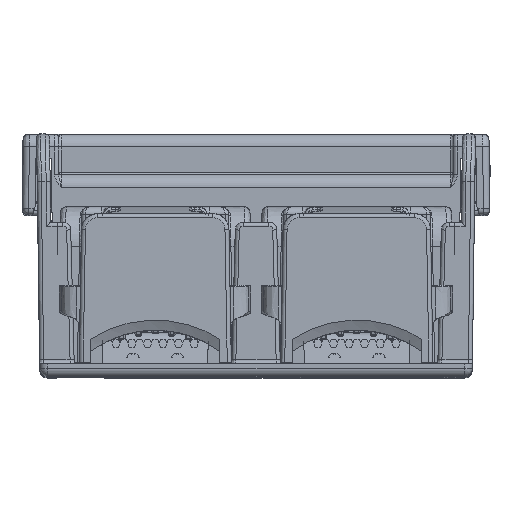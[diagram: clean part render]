
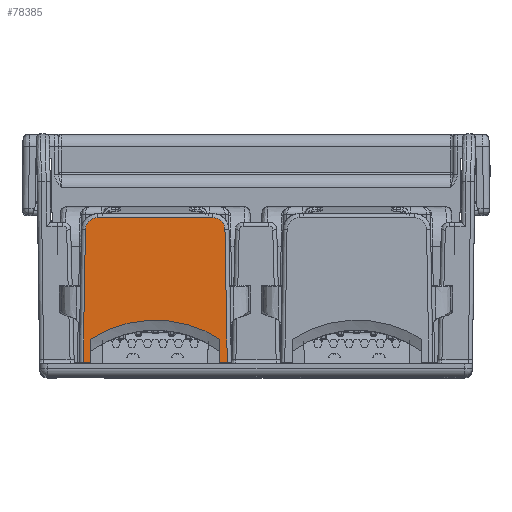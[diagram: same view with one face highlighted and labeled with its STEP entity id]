
A CAD part, top view. The second image highlights one B-rep face of the part: STEP entity #78385.
In plain terms, the highlighted planar face has unit normal (0, 0.013, 1).
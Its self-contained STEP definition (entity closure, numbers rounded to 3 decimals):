
#16621=DIRECTION('',(0.,1.,-0.013));
#16622=VECTOR('',#16621,2.818);
#16623=CARTESIAN_POINT('',(-20.45,1.8,51.85));
#16624=LINE('',#16623,#16622);
#16729=CARTESIAN_POINT('',(-21.35,1.8,51.85));
#16743=CARTESIAN_POINT('',(-3.55,1.8,51.85));
#19562=DIRECTION('',(0.,-1.,0.013));
#19563=VECTOR('',#19562,2.818);
#19564=CARTESIAN_POINT('',(-4.45,4.618,51.813));
#19565=LINE('',#19564,#19563);
#19676=DIRECTION('',(-1.,0.,0.));
#19677=VECTOR('',#19676,14.229);
#19678=CARTESIAN_POINT('',(-5.336,19.631,
51.617));
#19679=LINE('',#19678,#19677);
#19680=CARTESIAN_POINT('',(-3.835,18.13,
51.636));
#19681=CARTESIAN_POINT('',(-3.837,18.248,
51.635));
#19682=CARTESIAN_POINT('',(-3.867,18.473,
51.632));
#19683=CARTESIAN_POINT('',(-3.978,18.783,
51.628));
#19684=CARTESIAN_POINT('',(-4.155,19.065,
51.624));
#19685=CARTESIAN_POINT('',(-4.381,19.297,
51.621));
#19686=CARTESIAN_POINT('',(-4.661,19.482,
51.619));
#19687=CARTESIAN_POINT('',(-4.987,19.603,
51.617));
#19688=CARTESIAN_POINT('',(-5.216,19.631,
51.617));
#19689=CARTESIAN_POINT('',(-5.336,19.631,
51.617));
#19691=DIRECTION('',(-0.017,1.,-0.013));
#19692=VECTOR('',#19691,16.334);
#19693=CARTESIAN_POINT('',(-3.55,1.8,51.85));
#19694=LINE('',#19693,#19692);
#19695=DIRECTION('',(-1.,0.,0.));
#19696=VECTOR('',#19695,0.9);
#19697=CARTESIAN_POINT('',(-3.55,1.8,51.85));
#19698=LINE('',#19697,#19696);
#19699=CARTESIAN_POINT('',(-20.45,4.618,51.813));
#19700=CARTESIAN_POINT('',(-20.411,4.643,
51.813));
#19701=CARTESIAN_POINT('',(-19.705,5.095,
51.807));
#19702=CARTESIAN_POINT('',(-18.257,5.855,
51.797));
#19703=CARTESIAN_POINT('',(-15.998,6.61,
51.787));
#19704=CARTESIAN_POINT('',(-13.646,6.993,
51.782));
#19705=CARTESIAN_POINT('',(-11.264,6.993,
51.782));
#19706=CARTESIAN_POINT('',(-8.912,6.612,
51.787));
#19707=CARTESIAN_POINT('',(-6.652,5.859,
51.797));
#19708=CARTESIAN_POINT('',(-5.201,5.098,
51.807));
#19709=CARTESIAN_POINT('',(-4.492,4.645,
51.813));
#19710=CARTESIAN_POINT('',(-4.45,4.618,51.813));
#19712=DIRECTION('',(-1.,0.,0.));
#19713=VECTOR('',#19712,0.9);
#19714=CARTESIAN_POINT('',(-20.45,1.8,51.85));
#19715=LINE('',#19714,#19713);
#19716=DIRECTION('',(-0.017,-1.,0.013));
#19717=VECTOR('',#19716,16.334);
#19718=CARTESIAN_POINT('',(-21.065,18.13,
51.636));
#19719=LINE('',#19718,#19717);
#19720=CARTESIAN_POINT('',(-19.564,19.631,
51.617));
#19721=CARTESIAN_POINT('',(-19.684,19.631,
51.617));
#19722=CARTESIAN_POINT('',(-19.914,19.602,
51.617));
#19723=CARTESIAN_POINT('',(-20.232,19.486,
51.618));
#19724=CARTESIAN_POINT('',(-20.524,19.295,
51.621));
#19725=CARTESIAN_POINT('',(-20.763,19.042,
51.624));
#19726=CARTESIAN_POINT('',(-20.924,18.773,
51.628));
#19727=CARTESIAN_POINT('',(-21.028,18.489,
51.632));
#19728=CARTESIAN_POINT('',(-21.063,18.255,
51.635));
#19729=CARTESIAN_POINT('',(-21.065,18.13,
51.636));
#43237=VERTEX_POINT('',#19699);
#43238=VERTEX_POINT('',#19710);
#43239=CARTESIAN_POINT('',(-4.45,1.8,51.85));
#43240=VERTEX_POINT('',#43239);
#43241=CARTESIAN_POINT('',(-20.45,1.8,51.85));
#43242=VERTEX_POINT('',#43241);
#43315=CARTESIAN_POINT('',(-5.336,19.631,
51.617));
#43316=CARTESIAN_POINT('',(-19.564,19.631,
51.617));
#43317=VERTEX_POINT('',#43315);
#43318=VERTEX_POINT('',#43316);
#43323=VERTEX_POINT('',#16729);
#43327=CARTESIAN_POINT('',(-21.065,18.13,
51.636));
#43328=VERTEX_POINT('',#43327);
#43329=VERTEX_POINT('',#19680);
#43332=VERTEX_POINT('',#16743);
#78363=CARTESIAN_POINT('',(-25.6,1.8,51.85));
#78364=DIRECTION('',(0.,0.013,1.));
#78365=DIRECTION('',(-1.,0.,0.));
#78366=AXIS2_PLACEMENT_3D('',#78363,#78364,#78365);
#78367=PLANE('',#78366);
#78369=ORIENTED_EDGE('',*,*,#78368,.F.);
#78371=ORIENTED_EDGE('',*,*,#78370,.F.);
#78373=ORIENTED_EDGE('',*,*,#78372,.F.);
#78374=ORIENTED_EDGE('',*,*,#74377,.T.);
#78375=ORIENTED_EDGE('',*,*,#78221,.F.);
#78376=ORIENTED_EDGE('',*,*,#78357,.F.);
#78377=ORIENTED_EDGE('',*,*,#74212,.F.);
#78378=ORIENTED_EDGE('',*,*,#74362,.T.);
#78380=ORIENTED_EDGE('',*,*,#78379,.F.);
#78382=ORIENTED_EDGE('',*,*,#78381,.F.);
#78383=EDGE_LOOP('',(#78369,#78371,#78373,#78374,#78375,#78376,#78377,#78378,
#78380,#78382));
#78384=FACE_OUTER_BOUND('',#78383,.F.);
#78385=ADVANCED_FACE('',(#78384),#78367,.T.);
#19690=B_SPLINE_CURVE_WITH_KNOTS('',3,(#19680,#19681,#19682,#19683,#19684,
#19685,#19686,#19687,#19688,#19689),.UNSPECIFIED.,.F.,.F.,(4,1,1,1,1,1,1,4),(
0.,0.143,0.286,0.429,0.571,
0.714,0.857,1.),.UNSPECIFIED.);
#19711=B_SPLINE_CURVE_WITH_KNOTS('',3,(#19699,#19700,#19701,#19702,#19703,
#19704,#19705,#19706,#19707,#19708,#19709,#19710),.UNSPECIFIED.,.F.,.F.,(4,1,1,
1,1,1,1,1,1,4),(0.,0.008,0.149,0.289,
0.429,0.57,0.71,0.851,
0.991,1.),.UNSPECIFIED.);
#19730=B_SPLINE_CURVE_WITH_KNOTS('',3,(#19720,#19721,#19722,#19723,#19724,
#19725,#19726,#19727,#19728,#19729),.UNSPECIFIED.,.F.,.F.,(4,1,1,1,1,1,1,4),(
0.,0.143,0.286,0.429,0.571,
0.714,0.857,1.),.UNSPECIFIED.);
#74212=EDGE_CURVE('',#43242,#43237,#16624,.T.);
#74362=EDGE_CURVE('',#43242,#43323,#19715,.T.);
#74377=EDGE_CURVE('',#43332,#43240,#19698,.T.);
#78221=EDGE_CURVE('',#43238,#43240,#19565,.T.);
#78357=EDGE_CURVE('',#43237,#43238,#19711,.T.);
#78368=EDGE_CURVE('',#43317,#43318,#19679,.T.);
#78370=EDGE_CURVE('',#43329,#43317,#19690,.T.);
#78372=EDGE_CURVE('',#43332,#43329,#19694,.T.);
#78379=EDGE_CURVE('',#43328,#43323,#19719,.T.);
#78381=EDGE_CURVE('',#43318,#43328,#19730,.T.);
